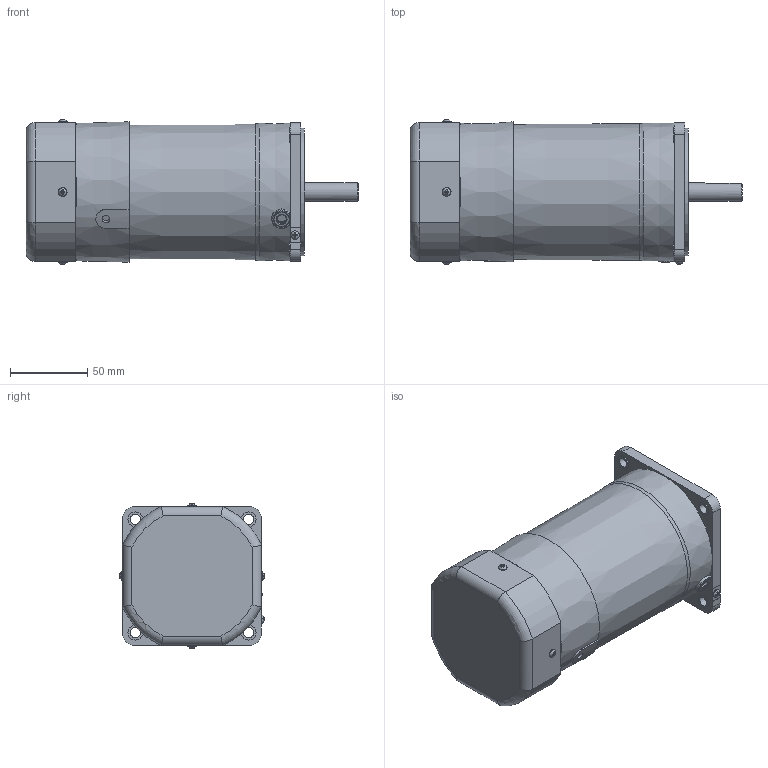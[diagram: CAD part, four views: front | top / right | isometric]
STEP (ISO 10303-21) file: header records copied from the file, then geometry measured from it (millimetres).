
FILE_DESCRIPTION(/* description */ (''),/* implementation_level */ '2;1');
FILE_NAME(/* name */ 'Y:\제품연구개발\4. 개발프로젝트\2. 프로젝트_제품군별\2. STANDARD AC\공유 (이현극)\AC 3D 파일 정리 및 검토\S9I150_-E\S9I150K_-E.stp',/* time_stamp */ '2024-01-09T10:58:17+09:00',/* author */ ('shyi1037'),/* organization */ (''),/* preprocessor_version */ 'ST-DEVELOPER v18.1',/* originating_system */ 'Autodesk Inventor 2022',/* authorisation */ '');
FILE_SCHEMA (('AUTOMOTIVE_DESIGN { 1 0 10303 214 3 1 1 }'));
Length unit declared in the file: millimetre
Products named in the file (1): S9I150K_-E
Bounding box: 215.3 x 93.89 x 93.89 mm (x, y, z)
Volume: 1141949.3 mm3; surface area: 74956.4 mm2
Topology: 1 solids, 6 shells, 247 faces, 626 edges, 412 vertices
Faces by surface type: plane 155, cylinder 62, torus 15, cone 9, bspline 5, sphere 1
Full cylindrical faces by diameter (mm): 3 x4, 3.5 x4, 5 x1, 5.6 x5, 6 x1, 6.5 x4, 9.5 x4, 10 x1, 12 x1, 40 x1, 83 x1, 86 x1
Entity records: 8092 total; most frequent: CARTESIAN_POINT 2107, ORIENTED_EDGE 1252, DIRECTION 1188, EDGE_CURVE 626, AXIS2_PLACEMENT_3D 419, VERTEX_POINT 412, LINE 350, VECTOR 350
